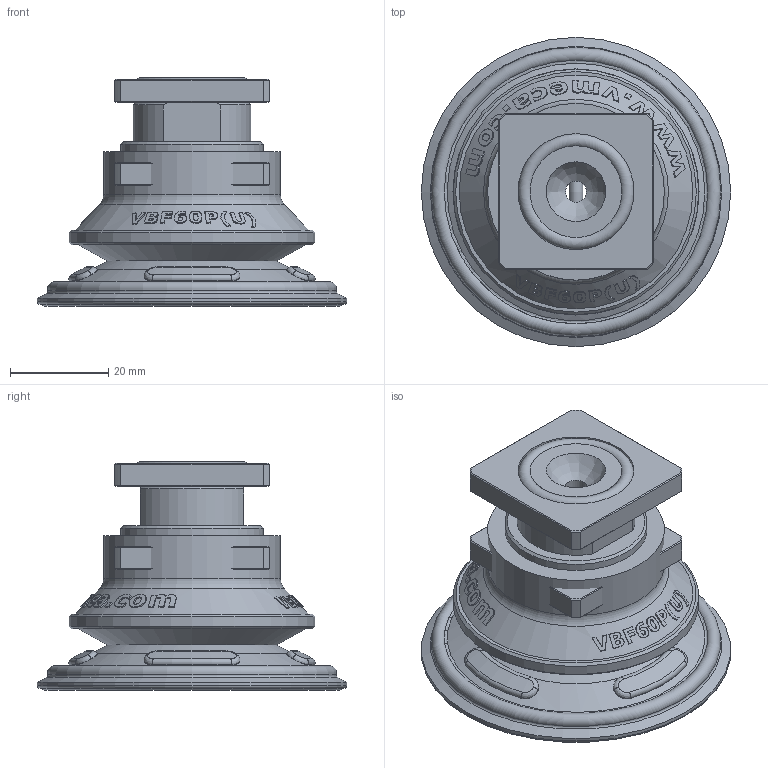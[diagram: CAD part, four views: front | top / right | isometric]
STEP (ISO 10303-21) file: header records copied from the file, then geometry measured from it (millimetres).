
FILE_DESCRIPTION( ( 'Unknown' ), '1' );
FILE_NAME( 'C:/Documents and Settings/owner/官帕 拳搁/啊付快瘤/VBF60-38F-QA.stp', 'Unknown', ( 'Unknown' ), ( 'Unknown' ), 'XStep 1.0', 'Unknown', ' ' );
FILE_SCHEMA( ( 'automotive_design' ) );
Length unit declared in the file: millimetre
Products named in the file (4): Assem1; 1_0; Quick mount adaptor; G18 (3x18)
Bounding box: 63 x 63 x 46.52 mm (x, y, z)
Volume: 67481.1 mm3; surface area: 40806.3 mm2
Topology: 6 solids, 6 shells, 716 faces, 1708 edges, 1096 vertices
Faces by surface type: bspline 410, cone 142, plane 72, cylinder 56, torus 36
Full cylindrical faces by diameter (mm): 4.3 x2, 5 x16, 7 x2, 12 x2, 14.95 x2, 15 x2, 16.6 x2, 18.152 x2, 18.7 x2, 23.6 x2, 28 x2, 29 x2, 36 x2, 49.995 x2, 63 x2
Entity records: 27488 total; most frequent: CARTESIAN_POINT 18367, ORIENTED_EDGE 1562, EDGE_CURVE 781, DIRECTION 774, VERTEX_POINT 531, EDGE_LOOP 466, B_SPLINE_CURVE_WITH_KNOTS 466, FACE_OUTER_BOUND 395
